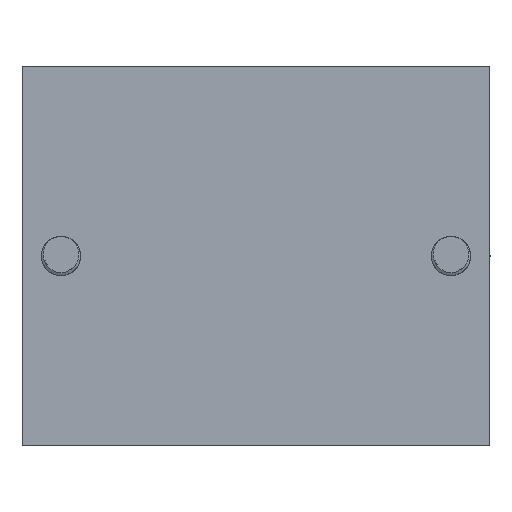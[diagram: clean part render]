
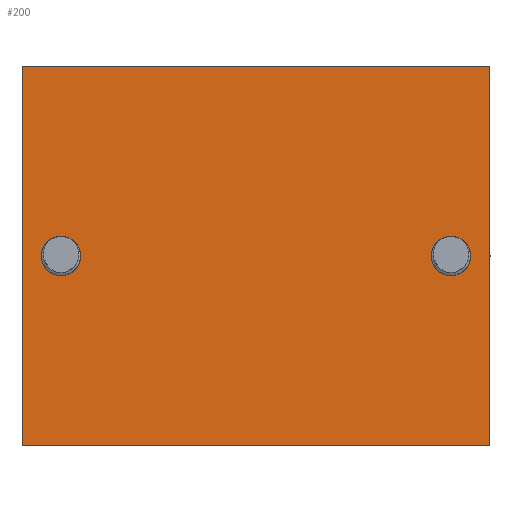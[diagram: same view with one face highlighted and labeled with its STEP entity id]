
A CAD part, left-side view. The second image highlights one B-rep face of the part: STEP entity #200.
In plain terms, the highlighted planar face has unit normal (-1, 0, 0).
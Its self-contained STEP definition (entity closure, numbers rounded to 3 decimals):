
#122=FACE_BOUND('',#317,.T.);
#123=FACE_BOUND('',#318,.T.);
#170=CIRCLE('',#843,4.391);
#171=CIRCLE('',#844,4.391);
#200=ADVANCED_FACE('',(#122,#123,#276),#241,.F.);
#241=PLANE('',#845);
#276=FACE_OUTER_BOUND('',#319,.T.);
#317=EDGE_LOOP('',(#435));
#318=EDGE_LOOP('',(#436));
#319=EDGE_LOOP('',(#437,#438,#439,#440));
#435=ORIENTED_EDGE('',*,*,#659,.F.);
#436=ORIENTED_EDGE('',*,*,#660,.T.);
#437=ORIENTED_EDGE('',*,*,#661,.T.);
#438=ORIENTED_EDGE('',*,*,#662,.F.);
#439=ORIENTED_EDGE('',*,*,#663,.F.);
#440=ORIENTED_EDGE('',*,*,#664,.T.);
#579=VERTEX_POINT('',#4454);
#580=VERTEX_POINT('',#4456);
#581=VERTEX_POINT('',#4458);
#582=VERTEX_POINT('',#4459);
#583=VERTEX_POINT('',#4461);
#584=VERTEX_POINT('',#4463);
#659=EDGE_CURVE('',#579,#579,#170,.T.);
#660=EDGE_CURVE('',#580,#580,#171,.T.);
#661=EDGE_CURVE('',#581,#582,#740,.T.);
#662=EDGE_CURVE('',#583,#582,#741,.T.);
#663=EDGE_CURVE('',#584,#583,#742,.T.);
#664=EDGE_CURVE('',#584,#581,#743,.T.);
#740=LINE('',#4457,#794);
#741=LINE('',#4460,#795);
#742=LINE('',#4462,#796);
#743=LINE('',#4464,#797);
#794=VECTOR('',#943,1.);
#795=VECTOR('',#944,1.);
#796=VECTOR('',#945,1.);
#797=VECTOR('',#946,1.);
#843=AXIS2_PLACEMENT_3D('',#4453,#939,#940);
#844=AXIS2_PLACEMENT_3D('',#4455,#941,#942);
#845=AXIS2_PLACEMENT_3D('',#4465,#947,#948);
#939=DIRECTION('',(-1.,0.,0.));
#940=DIRECTION('',(0.,0.,-1.));
#941=DIRECTION('',(1.,0.,0.));
#942=DIRECTION('',(0.,0.,-1.));
#943=DIRECTION('',(0.,-1.,0.));
#944=DIRECTION('',(0.,0.,-1.));
#945=DIRECTION('',(0.,-1.,0.));
#946=DIRECTION('',(0.,0.,-1.));
#947=DIRECTION('',(1.,0.,0.));
#948=DIRECTION('',(0.,0.,-1.));
#4453=CARTESIAN_POINT('',(3.674,36.506,128.5));
#4454=CARTESIAN_POINT('',(3.674,36.506,124.109));
#4455=CARTESIAN_POINT('',(3.674,-63.494,128.5));
#4456=CARTESIAN_POINT('',(3.674,-63.494,124.109));
#4457=CARTESIAN_POINT('',(3.674,36.506,79.879));
#4458=CARTESIAN_POINT('',(3.674,46.506,79.879));
#4459=CARTESIAN_POINT('',(3.674,-73.494,79.879));
#4460=CARTESIAN_POINT('',(3.674,-73.494,87.429));
#4461=CARTESIAN_POINT('',(3.674,-73.494,177.121));
#4462=CARTESIAN_POINT('',(3.674,36.506,177.121));
#4463=CARTESIAN_POINT('',(3.674,46.506,177.121));
#4464=CARTESIAN_POINT('',(3.674,46.506,87.429));
#4465=CARTESIAN_POINT('',(3.674,-66.998,87.429));
